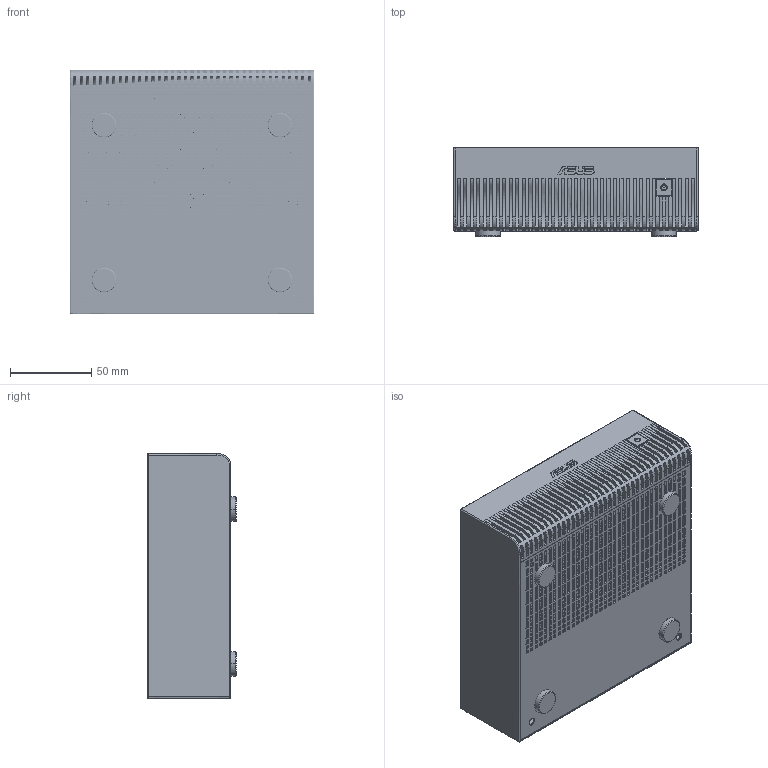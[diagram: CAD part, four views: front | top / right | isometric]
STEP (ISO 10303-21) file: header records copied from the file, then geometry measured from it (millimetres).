
FILE_DESCRIPTION((''),'2;1');
FILE_NAME('SOLAR_ID_ALL_ASM_C2R058_0417_ASM','2026-04-20T',('Stanley_Liao'),('PTC'),'CREO PARAMETRIC BY PTC INC, 2015290','CREO PARAMETRIC BY PTC INC, 2015290','');
FILE_SCHEMA(('AUTOMOTIVE_DESIGN { 1 0 10303 214 1 1 1 1 }'));
Products named in the file (12): SOLAR_ID_BOTTOM_C2R058_0417; SOLAR_ID_MAIN_1_C2R058_0417; SOLAR_ID_MAIN_2_C2R058_0417; SOLAR_ID_MAIN_C2R058_0417_ASM; SOLAR_ID_TOP_C2R058_0417; SOLAR_ID_RUBBER_C2R058_0417; SOLAR_ID_RB_FOOT_1_C2R058_0417; SOLAR_ID_RB_FOOT_2_C2R058_0417; SOLAR_ID_RB_FOOT_3_C2R058_0417; SOLAR_ID_RB_FOOT_4_C2R058_0417; SOLAR_ID_RB_FOOT_C2R058_0417_ASM; SOLAR_ID_ALL_ASM_C2R058_0417_ASM
Assembly tree (11 placements, depth 3):
  SOLAR_ID_ALL_ASM_C2R058_0417_ASM
    SOLAR_ID_BOTTOM_C2R058_0417
    SOLAR_ID_MAIN_C2R058_0417_ASM
      SOLAR_ID_MAIN_1_C2R058_0417
      SOLAR_ID_MAIN_2_C2R058_0417
    SOLAR_ID_TOP_C2R058_0417
    SOLAR_ID_RUBBER_C2R058_0417
    SOLAR_ID_RB_FOOT_C2R058_0417_ASM
      SOLAR_ID_RB_FOOT_1_C2R058_0417
      SOLAR_ID_RB_FOOT_2_C2R058_0417
      SOLAR_ID_RB_FOOT_3_C2R058_0417
      SOLAR_ID_RB_FOOT_4_C2R058_0417
Bounding box: 150 x 54.4 x 150 mm (x, y, z)
Volume: 97700.1 mm3; surface area: 161098.3 mm2
Topology: 8 solids, 8 shells, 3688 faces, 11105 edges, 7363 vertices
Faces by surface type: plane 1775, extrusion 1490, cylinder 255, bspline 160, revolution 8
Entity records: 175854 total; most frequent: CARTESIAN_POINT 80475, ORIENTED_EDGE 22198, DIRECTION 13155, EDGE_CURVE 11099, VECTOR 8389, VERTEX_POINT 7363, LINE 6899, B_SPLINE_CURVE_WITH_KNOTS 5378
